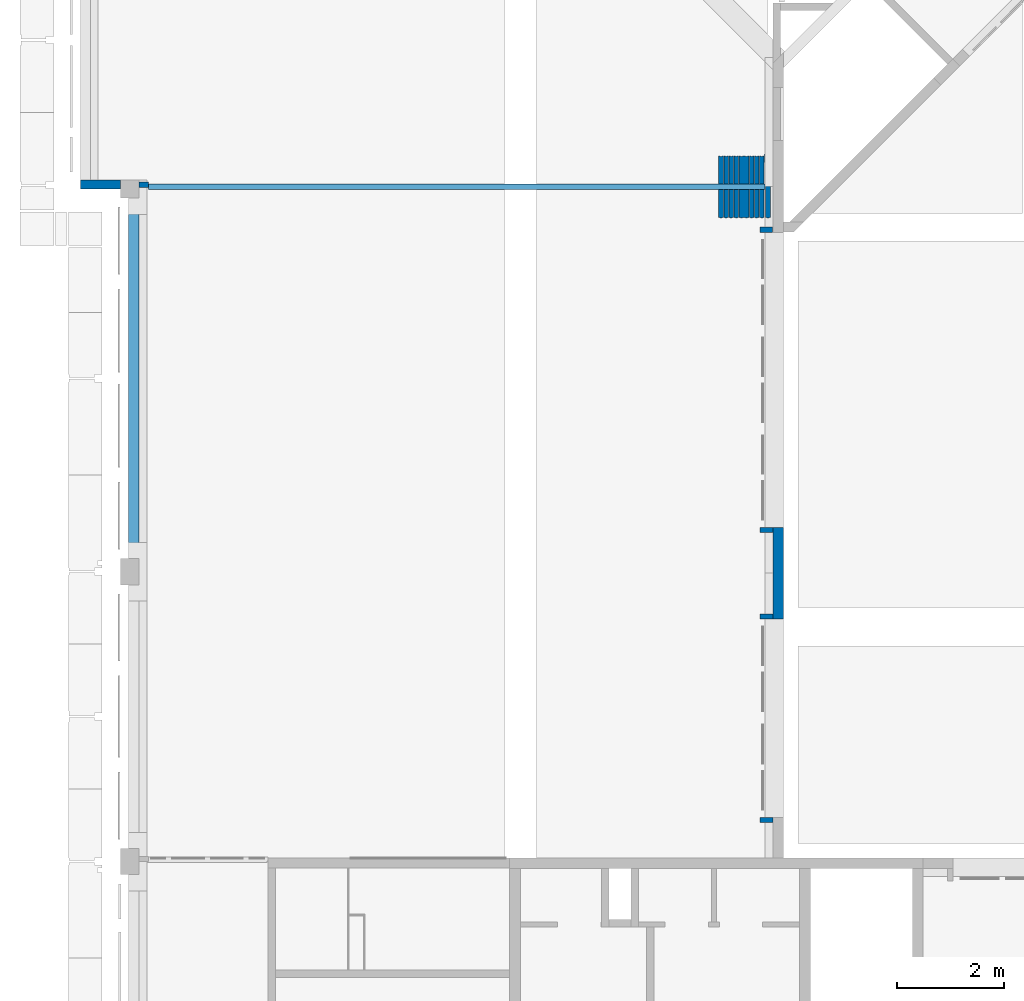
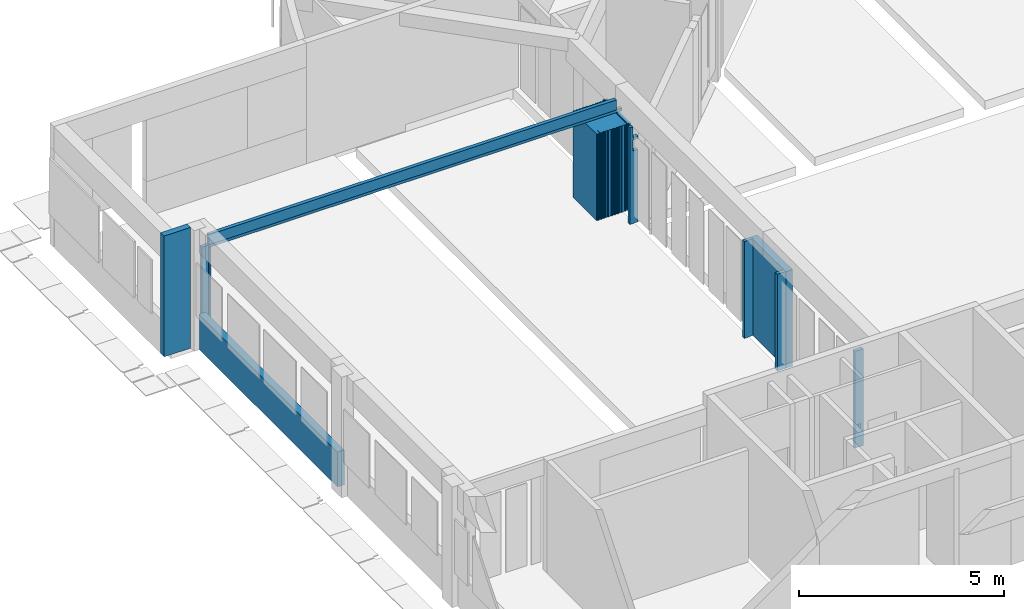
# One storey, part 15 of 30: 10 walls.
"""IFC4X3_ADD2 building model written with IfcOpenShell, lengths in millimetres."""

from ifc_helpers import new_model, si_unit, point, direction, frame, frame_2d, origin_with_axes, origin_2d_with_axis, place, context, subcontext, project, spatial, polyline, circle_curve, trimmed, segment, composite_curve, rectangle, outline, extrude, source, transform, mapped, material, type_object, type_shapes, element, save


model = new_model("IFC4X3_ADD2")

# Units and contexts
model_context = context("Model", 3, precision=1e-05, world=origin_with_axes(), true_north=direction((0.0, 1.0)))
body_context = subcontext(model_context, "Body", "Model", "MODEL_VIEW")
ifc_project = project(units=[si_unit("LENGTHUNIT", "METRE", prefix="MILLI"), si_unit("AREAUNIT", "SQUARE_METRE"), si_unit("VOLUMEUNIT", "CUBIC_METRE"), si_unit("PLANEANGLEUNIT", "RADIAN"), si_unit("TIMEUNIT", "SECOND"), si_unit("MASSUNIT", "GRAM")], contexts=[model_context])

# Site, building, storey
site_placement = place(None, origin_with_axes())
site = spatial("IfcSite", under=ifc_project, at=site_placement, Name="Site", CompositionType="ELEMENT")
building_placement = place(site_placement, origin_with_axes())
building = spatial("IfcBuilding", under=site, at=building_placement, Name="IFC Building Story")
storey_placement = place(building_placement, origin_with_axes())
storey = spatial("IfcBuildingStorey", under=building, at=storey_placement, Name="000", Elevation=0.0)

# Walls
ifc_material_1 = material(Name="BB_Beton_Bestaand")
wall_type_1 = type_object("IfcWallType", Name="BB_Beton_Bestaand 190", PredefinedType="NOTDEFINED", material=ifc_material_1)
wall_1_placement = place(storey_placement, origin_with_axes())
element("IfcWall", 1, at=wall_1_placement, inside=storey, type_object=wall_type_1, Name="Basic Wall:BB_XX_Wand uit beton, 190 mm", ObjectType="Basic Wall:BB_XX_Wand uit beton, 190 mm", PredefinedType="SOLIDWALL", context=body_context, shape_type="SweptSolid", body=[
    extrude(rectangle(XDim=6772.50000000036, YDim=189.9999999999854, at=frame_2d((0.0, 0.0), x_axis=(0.0, 1.0))), frame((-50700.0, 21631.25000000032, -200.0), z_axis=(0.0, 0.0, 1.0), x_axis=(1.0, 0.0, 0.0)), (0.0, 0.0, 1.0), 1040.0),
])
wall_2_placement = place(storey_placement, origin_with_axes())
element("IfcWall", 2, at=wall_2_placement, inside=storey, type_object=wall_type_1, Name="Basic Wall:BB_XX_Wand uit beton, 190 mm", ObjectType="Basic Wall:BB_XX_Wand uit beton, 190 mm", PredefinedType="SOLIDWALL", context=body_context, shape_type="SweptSolid", body=[
    extrude(rectangle(XDim=1710.0, YDim=190.0, at=frame_2d((0.0, 0.0), x_axis=(0.0, 1.0))), frame((-38700.0, 18000.0, -200.0), z_axis=(0.0, 0.0, 1.0), x_axis=(1.0, 0.0, 0.0)), (0.0, 0.0, 1.0), 2880.0),
])
wall_type_2 = type_object("IfcWallType", Name="BB_Beton_Bestaand 170", PredefinedType="NOTDEFINED", material=ifc_material_1)
wall_3_placement = place(storey_placement, origin_with_axes())
element("IfcWall", 3, at=wall_3_placement, inside=storey, type_object=wall_type_2, Name="Basic Wall:BB_XX_Wand uit beton, 170 mm", ObjectType="Basic Wall:BB_XX_Wand uit beton, 170 mm", PredefinedType="SOLIDWALL", context=body_context, shape_type="SweptSolid", body=[
    extrude(rectangle(XDim=750.0000000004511, YDim=169.9999999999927, at=origin_2d_with_axis()), frame((-51320.00000000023, 25240.0, -200.0), z_axis=(0.0, 0.0, 1.0), x_axis=(1.0, 0.0, 0.0)), (0.0, 0.0, 1.0), 3600.0),
])
wall_type_3 = type_object("IfcWallType", Name="Basic Wall_BB_10.01.41#03_Gipskartonwand_43dB_MS100 _ 25.50.25_ 100 mm", PredefinedType="NOTDEFINED")
shared_shape_1 = source(origin_with_axes(), body_context, "Body", "SweptSolid", [
    extrude(outline(polyline([(-102.0000000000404, -465.0000000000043), (38.00000000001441, -465.0000000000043), (38.00000000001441, -145.0000000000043), (-102.000000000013, -145.0000000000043), (-102.000000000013, 2019.999999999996), (127.999999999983, 2019.999999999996), (127.999999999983, -864.9999999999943), (38.00000000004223, -864.9999999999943), (38.00000000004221, -544.9999999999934), (-102.000000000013, -544.9999999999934), (-102.0000000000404, -465.0000000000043)])), frame((102.000000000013, 37.49999999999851, 2019.999999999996), z_axis=(0.0, 1.0, 0.0), x_axis=(1.0, 0.0, 0.0)), (0.0, 0.0, 1.0), 12.50000000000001),
    extrude(outline(polyline([(-102.0000000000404, -465.0000000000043), (38.00000000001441, -465.0000000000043), (38.00000000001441, -145.0000000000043), (-102.000000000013, -145.0000000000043), (-102.000000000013, 2019.999999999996), (127.999999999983, 2019.999999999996), (127.999999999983, -864.9999999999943), (38.00000000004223, -864.9999999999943), (38.00000000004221, -544.9999999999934), (-102.000000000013, -544.9999999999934), (-102.0000000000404, -465.0000000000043)])), frame((102.000000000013, 25.000000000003, 2019.999999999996), z_axis=(0.0, 1.0, 0.0), x_axis=(1.0, 0.0, 0.0)), (0.0, 0.0, 1.0), 12.5000000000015),
    extrude(outline(polyline([(-102.0000000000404, -465.0000000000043), (38.00000000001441, -465.0000000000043), (38.00000000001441, -145.0000000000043), (-102.000000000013, -145.0000000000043), (-102.000000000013, 2019.999999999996), (127.999999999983, 2019.999999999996), (127.999999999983, -864.9999999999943), (38.00000000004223, -864.9999999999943), (38.00000000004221, -544.9999999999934), (-102.000000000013, -544.9999999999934), (-102.0000000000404, -465.0000000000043)])), frame((102.0000000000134, -24.9999999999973, 2019.999999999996), z_axis=(0.0, 1.0, 0.0), x_axis=(1.0, 0.0, 0.0)), (0.0, 0.0, 1.0), 49.9999999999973),
    extrude(outline(polyline([(-102.0000000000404, -465.0000000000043), (38.00000000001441, -465.0000000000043), (38.00000000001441, -145.0000000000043), (-102.000000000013, -145.0000000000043), (-102.000000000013, 2019.999999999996), (127.999999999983, 2019.999999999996), (127.999999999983, -864.9999999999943), (38.00000000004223, -864.9999999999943), (38.00000000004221, -544.9999999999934), (-102.000000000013, -544.9999999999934), (-102.0000000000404, -465.0000000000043)])), frame((102.0000000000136, -37.50000000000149, 2019.999999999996), z_axis=(0.0, 1.0, 0.0), x_axis=(1.0, 0.0, 0.0)), (0.0, 0.0, 1.0), 12.50000000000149),
    extrude(outline(polyline([(-102.0000000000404, -465.0000000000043), (38.00000000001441, -465.0000000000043), (38.00000000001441, -145.0000000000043), (-102.000000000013, -145.0000000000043), (-102.000000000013, 2019.999999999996), (127.999999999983, 2019.999999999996), (127.999999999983, -864.9999999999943), (38.00000000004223, -864.9999999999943), (38.00000000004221, -544.9999999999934), (-102.000000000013, -544.9999999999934), (-102.0000000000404, -465.0000000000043)])), frame((102.0000000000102, -49.99999999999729, 2019.999999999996), z_axis=(0.0, 1.0, 0.0), x_axis=(1.0, 0.0, 0.0)), (0.0, 0.0, 1.0), 12.50000000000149),
])
type_shapes(wall_type_3, [shared_shape_1])
wall_4_placement = place(storey_placement, frame((-38805.0, 24395.0, -200.0), z_axis=(0.0, 0.0, 1.0), x_axis=(-1.0, 0.0, 0.0)))
element("IfcWall", 4, at=wall_4_placement, inside=storey, type_object=wall_type_3, Name="Basic Wall:BB_10.01.41#03_Gipskartonwand_43dB_MS100 / 25.50.25, 100 mm", ObjectType="Basic Wall:BB_10.01.41#03_Gipskartonwand_43dB_MS100 / 25.50.25, 100 mm", PredefinedType="PARTITIONING", context=body_context, shape_type="MappedRepresentation", body=[
    mapped(shared_shape_1, transform((0.0, 0.0, 0.0))),
])
wall_type_4 = type_object("IfcWallType", Name="Basic Wall_BB_10.01.41#03_Gipskartonwand_43dB_MS100 _ 25.50.25_ 100 mm31", PredefinedType="NOTDEFINED")
shared_shape_2 = source(origin_with_axes(), body_context, "Body", "SweptSolid", [
    extrude(rectangle(XDim=240.000000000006, YDim=12.49999999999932, at=origin_2d_with_axis()), frame((120.0, 43.75000000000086, 0.0), z_axis=(0.0, 0.0, 1.0), x_axis=(1.0, 0.0, 0.0)), (0.0, 0.0, 1.0), 2884.99999999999),
    extrude(rectangle(XDim=240.000000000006, YDim=12.49999999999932, at=origin_2d_with_axis()), frame((120.0, 31.24999999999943, 0.0), z_axis=(0.0, 0.0, 1.0), x_axis=(1.0, 0.0, 0.0)), (0.0, 0.0, 1.0), 2884.99999999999),
    extrude(rectangle(XDim=240.000000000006, YDim=50.00000000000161, at=origin_2d_with_axis()), frame((119.999999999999, 0.0, 0.0), z_axis=(0.0, 0.0, 1.0), x_axis=(1.0, 0.0, 0.0)), (0.0, 0.0, 1.0), 2884.99999999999),
    extrude(rectangle(XDim=240.000000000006, YDim=12.49999999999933, at=origin_2d_with_axis()), frame((120.0, -31.24999999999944, 0.0), z_axis=(0.0, 0.0, 1.0), x_axis=(1.0, 0.0, 0.0)), (0.0, 0.0, 1.0), 2884.99999999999),
    extrude(rectangle(XDim=240.000000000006, YDim=12.49999999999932, at=origin_2d_with_axis()), frame((119.999999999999, -43.7499999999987, 0.0), z_axis=(0.0, 0.0, 1.0), x_axis=(1.0, 0.0, 0.0)), (0.0, 0.0, 1.0), 2884.99999999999),
])
type_shapes(wall_type_4, [shared_shape_2])
wall_5_placement = place(storey_placement, frame((-39034.9959341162, 18805.0, -200.0), z_axis=(0.0, 0.0, 1.0), x_axis=(1.0, 0.0, 0.0)))
element("IfcWall", 5, at=wall_5_placement, inside=storey, type_object=wall_type_4, Name="Basic Wall:BB_10.01.41#03_Gipskartonwand_43dB_MS100 / 25.50.25, 100 mm", ObjectType="Basic Wall:BB_10.01.41#03_Gipskartonwand_43dB_MS100 / 25.50.25, 100 mm", PredefinedType="PARTITIONING", context=body_context, shape_type="MappedRepresentation", body=[
    mapped(shared_shape_2, transform((0.0, 0.0, 0.0))),
])
wall_type_5 = type_object("IfcWallType", Name="Basic Wall_BB_10.01.41#03_Gipskartonwand_43dB_MS100 _ 25.50.25_ 100 mm33", PredefinedType="NOTDEFINED")
shared_shape_3 = source(origin_with_axes(), body_context, "Body", "SweptSolid", [
    extrude(rectangle(XDim=240.000000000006, YDim=12.49999999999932, at=origin_2d_with_axis()), frame((120.0, 43.75000000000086, 0.0), z_axis=(0.0, 0.0, 1.0), x_axis=(1.0, 0.0, 0.0)), (0.0, 0.0, 1.0), 2884.99999999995),
    extrude(rectangle(XDim=240.000000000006, YDim=12.49999999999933, at=origin_2d_with_axis()), frame((120.0, 31.24999999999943, 0.0), z_axis=(0.0, 0.0, 1.0), x_axis=(1.0, 0.0, 0.0)), (0.0, 0.0, 1.0), 2884.99999999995),
    extrude(rectangle(XDim=240.000000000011, YDim=50.00000000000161, at=origin_2d_with_axis()), frame((119.999999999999, 0.0, 0.0), z_axis=(0.0, 0.0, 1.0), x_axis=(1.0, 0.0, 0.0)), (0.0, 0.0, 1.0), 2884.99999999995),
    extrude(rectangle(XDim=240.000000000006, YDim=12.49999999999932, at=origin_2d_with_axis()), frame((120.0, -31.24999999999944, 0.0), z_axis=(0.0, 0.0, 1.0), x_axis=(1.0, 0.0, 0.0)), (0.0, 0.0, 1.0), 2884.99999999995),
    extrude(rectangle(XDim=240.000000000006, YDim=12.49999999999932, at=origin_2d_with_axis()), frame((119.999999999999, -43.7499999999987, 0.0), z_axis=(0.0, 0.0, 1.0), x_axis=(1.0, 0.0, 0.0)), (0.0, 0.0, 1.0), 2884.99999999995),
])
type_shapes(wall_type_5, [shared_shape_3])
wall_6_placement = place(storey_placement, frame((-39034.9959341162, 13405.0, -200.0), z_axis=(0.0, 0.0, 1.0), x_axis=(1.0, 0.0, 0.0)))
element("IfcWall", 6, at=wall_6_placement, inside=storey, type_object=wall_type_5, Name="Basic Wall:BB_10.01.41#03_Gipskartonwand_43dB_MS100 / 25.50.25, 100 mm", ObjectType="Basic Wall:BB_10.01.41#03_Gipskartonwand_43dB_MS100 / 25.50.25, 100 mm", PredefinedType="PARTITIONING", context=body_context, shape_type="MappedRepresentation", body=[
    mapped(shared_shape_3, transform((0.0, 0.0, 0.0))),
])
wall_type_6 = type_object("IfcWallType", Name="Basic Wall_BB_10.01.41#03_Gipskartonwand_43dB_MS100 _ 25.50.25_ 100 mm35", PredefinedType="NOTDEFINED")
shared_shape_4 = source(origin_with_axes(), body_context, "Body", "SweptSolid", [
    extrude(rectangle(XDim=240.000000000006, YDim=12.49999999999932, at=origin_2d_with_axis()), frame((119.999999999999, -43.7499999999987, 0.0), z_axis=(0.0, 0.0, 1.0), x_axis=(1.0, 0.0, 0.0)), (0.0, 0.0, 1.0), 2884.99999999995),
    extrude(rectangle(XDim=240.000000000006, YDim=12.49999999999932, at=origin_2d_with_axis()), frame((120.0, -31.24999999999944, 0.0), z_axis=(0.0, 0.0, 1.0), x_axis=(1.0, 0.0, 0.0)), (0.0, 0.0, 1.0), 2884.99999999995),
    extrude(rectangle(XDim=240.000000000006, YDim=50.00000000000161, at=origin_2d_with_axis()), frame((119.999999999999, 0.0, 0.0), z_axis=(0.0, 0.0, 1.0), x_axis=(1.0, 0.0, 0.0)), (0.0, 0.0, 1.0), 2884.99999999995),
    extrude(rectangle(XDim=240.00000000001, YDim=12.49999999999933, at=origin_2d_with_axis()), frame((120.0, 31.24999999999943, 0.0), z_axis=(0.0, 0.0, 1.0), x_axis=(1.0, 0.0, 0.0)), (0.0, 0.0, 1.0), 2884.99999999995),
    extrude(rectangle(XDim=240.000000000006, YDim=12.49999999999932, at=origin_2d_with_axis()), frame((120.0, 43.75000000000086, 0.0), z_axis=(0.0, 0.0, 1.0), x_axis=(1.0, 0.0, 0.0)), (0.0, 0.0, 1.0), 2884.99999999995),
])
type_shapes(wall_type_6, [shared_shape_4])
wall_7_placement = place(storey_placement, frame((-39034.9959341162, 17195.0, -200.0), z_axis=(0.0, 0.0, 1.0), x_axis=(1.0, 0.0, 0.0)))
element("IfcWall", 7, at=wall_7_placement, inside=storey, type_object=wall_type_6, Name="Basic Wall:BB_10.01.41#03_Gipskartonwand_43dB_MS100 / 25.50.25, 100 mm", ObjectType="Basic Wall:BB_10.01.41#03_Gipskartonwand_43dB_MS100 / 25.50.25, 100 mm", PredefinedType="PARTITIONING", context=body_context, shape_type="MappedRepresentation", body=[
    mapped(shared_shape_4, transform((0.0, 0.0, 0.0))),
])
ifc_material_2 = material(Name="BB_MDF")
wall_type_7 = type_object("IfcWallType", Name="BB_10.02.31_Verrolbare binnenwand_ lokaal K.00.201_GMO_XX_Geen", PredefinedType="NOTDEFINED")
shared_shape_5 = source(origin_with_axes(), body_context, "Body", "SweptSolid", [
    extrude(outline(composite_curve([segment(polyline([(-24.00000000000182, -573.7499999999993), (-44.00000000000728, -573.7499999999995)]), True, "CONTINUOUS"), segment(polyline([(-44.00000000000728, -573.7499999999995), (-43.99999999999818, 573.7499999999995)]), True, "CONTINUOUS"), segment(polyline([(-43.99999999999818, 573.7499999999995), (-23.99999999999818, 573.7499999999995)]), True, "CONTINUOUS"), segment(trimmed(circle_curve(frame_2d((5.456968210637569e-12, 589.4038461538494), x_axis=(1.0, 0.0)), 28.65384615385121), [point((-23.99999999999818, 573.7499999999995))], [point((24.00000000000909, 573.7499999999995))], True, "CARTESIAN"), True, "CONTINUOUS"), segment(polyline([(24.00000000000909, 573.7499999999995), (44.00000000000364, 573.7499999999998)]), True, "CONTINUOUS"), segment(polyline([(44.00000000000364, 573.7499999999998), (43.99999999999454, -573.7499999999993)]), True, "CONTINUOUS"), segment(polyline([(43.99999999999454, -573.7499999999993), (23.99999999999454, -573.7499999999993)]), True, "CONTINUOUS"), segment(trimmed(circle_curve(frame_2d((-3.637978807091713e-12, -558.0961538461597), x_axis=(1.0, 0.0)), 28.65384615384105), [point((23.99999999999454, -573.7499999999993))], [point((-24.00000000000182, -573.7499999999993))], False, "CARTESIAN"), True, "CONTINUOUS")], self_intersect=False)), frame((11541.0, 586.7500000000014, 20.0), z_axis=(0.0, 0.0, 1.0), x_axis=(1.0, 0.0, 0.0)), (0.0, 0.0, 1.0), 2580.0),
    extrude(outline(composite_curve([segment(polyline([(-24.00000000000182, -573.7499999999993), (-44.00000000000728, -573.7499999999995)]), True, "CONTINUOUS"), segment(polyline([(-44.00000000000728, -573.7499999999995), (-43.99999999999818, 573.7499999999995)]), True, "CONTINUOUS"), segment(polyline([(-43.99999999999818, 573.7499999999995), (-23.99999999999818, 573.7499999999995)]), True, "CONTINUOUS"), segment(trimmed(circle_curve(frame_2d((5.456968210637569e-12, 589.4038461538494), x_axis=(1.0, 0.0)), 28.65384615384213), [point((-23.99999999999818, 573.7499999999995))], [point((24.00000000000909, 573.7499999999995))], True, "CARTESIAN"), True, "CONTINUOUS"), segment(polyline([(24.00000000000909, 573.7499999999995), (44.00000000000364, 573.7499999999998)]), True, "CONTINUOUS"), segment(polyline([(44.00000000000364, 573.7499999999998), (43.99999999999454, -573.7499999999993)]), True, "CONTINUOUS"), segment(polyline([(43.99999999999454, -573.7499999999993), (23.99999999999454, -573.7499999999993)]), True, "CONTINUOUS"), segment(trimmed(circle_curve(frame_2d((-3.637978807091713e-12, -558.0961538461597), x_axis=(1.0, 0.0)), 28.6538461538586), [point((23.99999999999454, -573.7499999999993))], [point((-24.00000000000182, -573.7499999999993))], False, "CARTESIAN"), True, "CONTINUOUS")], self_intersect=False)), frame((11426.0, 586.7500000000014, 20.0), z_axis=(0.0, 0.0, 1.0), x_axis=(1.0, 0.0, 0.0)), (0.0, 0.0, 1.0), 2580.0),
    extrude(outline(composite_curve([segment(polyline([(-24.00000000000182, -573.7499999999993), (-44.00000000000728, -573.7499999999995)]), True, "CONTINUOUS"), segment(polyline([(-44.00000000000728, -573.7499999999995), (-43.99999999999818, 573.7499999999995)]), True, "CONTINUOUS"), segment(polyline([(-43.99999999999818, 573.7499999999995), (-23.99999999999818, 573.7499999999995)]), True, "CONTINUOUS"), segment(trimmed(circle_curve(frame_2d((5.456968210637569e-12, 589.4038461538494), x_axis=(1.0, 0.0)), 28.65384615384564), [point((-23.99999999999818, 573.7499999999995))], [point((24.00000000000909, 573.7499999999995))], True, "CARTESIAN"), True, "CONTINUOUS"), segment(polyline([(24.00000000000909, 573.7499999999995), (44.00000000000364, 573.7499999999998)]), True, "CONTINUOUS"), segment(polyline([(44.00000000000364, 573.7499999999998), (43.99999999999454, -573.7499999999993)]), True, "CONTINUOUS"), segment(polyline([(43.99999999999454, -573.7499999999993), (23.99999999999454, -573.7499999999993)]), True, "CONTINUOUS"), segment(trimmed(circle_curve(frame_2d((-3.637978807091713e-12, -558.0961538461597), x_axis=(1.0, 0.0)), 28.65384615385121), [point((23.99999999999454, -573.7499999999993))], [point((-24.00000000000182, -573.7499999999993))], False, "CARTESIAN"), True, "CONTINUOUS")], self_intersect=False)), frame((11331.0, 586.7500000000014, 20.0), z_axis=(0.0, 0.0, 1.0), x_axis=(1.0, 0.0, 0.0)), (0.0, 0.0, 1.0), 2580.0),
    extrude(outline(composite_curve([segment(polyline([(-24.00000000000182, -573.7499999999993), (-44.00000000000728, -573.7499999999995)]), True, "CONTINUOUS"), segment(polyline([(-44.00000000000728, -573.7499999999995), (-43.99999999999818, 573.7499999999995)]), True, "CONTINUOUS"), segment(polyline([(-43.99999999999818, 573.7499999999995), (-23.99999999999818, 573.7499999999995)]), True, "CONTINUOUS"), segment(trimmed(circle_curve(frame_2d((5.456968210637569e-12, 589.4038461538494), x_axis=(1.0, 0.0)), 28.65384615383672), [point((-23.99999999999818, 573.7499999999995))], [point((24.00000000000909, 573.7499999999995))], True, "CARTESIAN"), True, "CONTINUOUS"), segment(polyline([(24.00000000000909, 573.7499999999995), (44.00000000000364, 573.7499999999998)]), True, "CONTINUOUS"), segment(polyline([(44.00000000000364, 573.7499999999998), (43.99999999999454, -573.7499999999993)]), True, "CONTINUOUS"), segment(polyline([(43.99999999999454, -573.7499999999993), (23.99999999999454, -573.7499999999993)]), True, "CONTINUOUS"), segment(trimmed(circle_curve(frame_2d((-3.637978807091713e-12, -558.0961538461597), x_axis=(1.0, 0.0)), 28.65384615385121), [point((23.99999999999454, -573.7499999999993))], [point((-24.00000000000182, -573.7499999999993))], False, "CARTESIAN"), True, "CONTINUOUS")], self_intersect=False)), frame((11236.0, 586.7500000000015, 20.0), z_axis=(0.0, 0.0, 1.0), x_axis=(1.0, 0.0, 0.0)), (0.0, 0.0, 1.0), 2580.0),
    extrude(outline(composite_curve([segment(polyline([(-24.00000000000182, -573.7499999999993), (-44.00000000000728, -573.7499999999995)]), True, "CONTINUOUS"), segment(polyline([(-44.00000000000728, -573.7499999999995), (-43.99999999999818, 573.7499999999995)]), True, "CONTINUOUS"), segment(polyline([(-43.99999999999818, 573.7499999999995), (-23.99999999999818, 573.7499999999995)]), True, "CONTINUOUS"), segment(trimmed(circle_curve(frame_2d((5.456968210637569e-12, 589.4038461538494), x_axis=(1.0, 0.0)), 28.65384615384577), [point((-23.99999999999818, 573.7499999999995))], [point((24.00000000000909, 573.7499999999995))], True, "CARTESIAN"), True, "CONTINUOUS"), segment(polyline([(24.00000000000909, 573.7499999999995), (44.00000000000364, 573.7499999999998)]), True, "CONTINUOUS"), segment(polyline([(44.00000000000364, 573.7499999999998), (43.99999999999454, -573.7499999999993)]), True, "CONTINUOUS"), segment(polyline([(43.99999999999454, -573.7499999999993), (23.99999999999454, -573.7499999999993)]), True, "CONTINUOUS"), segment(trimmed(circle_curve(frame_2d((-3.637978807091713e-12, -558.0961538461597), x_axis=(1.0, 0.0)), 28.65384615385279), [point((23.99999999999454, -573.7499999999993))], [point((-24.00000000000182, -573.7499999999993))], False, "CARTESIAN"), True, "CONTINUOUS")], self_intersect=False)), frame((11141.0, 586.750000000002, 20.0), z_axis=(0.0, 0.0, 1.0), x_axis=(1.0, 0.0, 0.0)), (0.0, 0.0, 1.0), 2580.0),
    extrude(outline(composite_curve([segment(polyline([(-24.00000000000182, -573.7499999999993), (-44.00000000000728, -573.7499999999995)]), True, "CONTINUOUS"), segment(polyline([(-44.00000000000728, -573.7499999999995), (-43.99999999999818, 573.7499999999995)]), True, "CONTINUOUS"), segment(polyline([(-43.99999999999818, 573.7499999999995), (-23.99999999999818, 573.7499999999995)]), True, "CONTINUOUS"), segment(trimmed(circle_curve(frame_2d((5.456968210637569e-12, 589.4038461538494), x_axis=(1.0, 0.0)), 28.65384615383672), [point((-23.99999999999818, 573.7499999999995))], [point((24.00000000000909, 573.7499999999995))], True, "CARTESIAN"), True, "CONTINUOUS"), segment(polyline([(24.00000000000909, 573.7499999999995), (44.00000000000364, 573.7499999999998)]), True, "CONTINUOUS"), segment(polyline([(44.00000000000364, 573.7499999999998), (43.99999999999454, -573.7499999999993)]), True, "CONTINUOUS"), segment(polyline([(43.99999999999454, -573.7499999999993), (23.99999999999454, -573.7499999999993)]), True, "CONTINUOUS"), segment(trimmed(circle_curve(frame_2d((-3.637978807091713e-12, -558.0961538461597), x_axis=(1.0, 0.0)), 28.65384615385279), [point((23.99999999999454, -573.7499999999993))], [point((-24.00000000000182, -573.7499999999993))], False, "CARTESIAN"), True, "CONTINUOUS")], self_intersect=False)), frame((11046.00000000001, 586.7500000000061, 20.0), z_axis=(0.0, 0.0, 1.0), x_axis=(1.0, 0.0, 0.0)), (0.0, 0.0, 1.0), 2580.0),
    extrude(outline(composite_curve([segment(polyline([(-24.00000000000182, -573.7499999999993), (-44.00000000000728, -573.7499999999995)]), True, "CONTINUOUS"), segment(polyline([(-44.00000000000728, -573.7499999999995), (-43.99999999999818, 573.7499999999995)]), True, "CONTINUOUS"), segment(polyline([(-43.99999999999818, 573.7499999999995), (-23.99999999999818, 573.7499999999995)]), True, "CONTINUOUS"), segment(trimmed(circle_curve(frame_2d((5.456968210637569e-12, 589.4038461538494), x_axis=(1.0, 0.0)), 28.65384615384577), [point((-23.99999999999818, 573.7499999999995))], [point((24.00000000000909, 573.7499999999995))], True, "CARTESIAN"), True, "CONTINUOUS"), segment(polyline([(24.00000000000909, 573.7499999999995), (44.00000000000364, 573.7499999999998)]), True, "CONTINUOUS"), segment(polyline([(44.00000000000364, 573.7499999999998), (43.99999999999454, -573.7499999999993)]), True, "CONTINUOUS"), segment(polyline([(43.99999999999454, -573.7499999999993), (23.99999999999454, -573.7499999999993)]), True, "CONTINUOUS"), segment(trimmed(circle_curve(frame_2d((-3.637978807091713e-12, -558.0961538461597), x_axis=(1.0, 0.0)), 28.65384615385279), [point((23.99999999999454, -573.7499999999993))], [point((-24.00000000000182, -573.7499999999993))], False, "CARTESIAN"), True, "CONTINUOUS")], self_intersect=False)), frame((10951.0, 586.7500000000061, 20.0), z_axis=(0.0, 0.0, 1.0), x_axis=(1.0, 0.0, 0.0)), (0.0, 0.0, 1.0), 2580.0),
    extrude(outline(composite_curve([segment(polyline([(-24.00000000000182, -573.7499999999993), (-44.00000000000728, -573.7499999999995)]), True, "CONTINUOUS"), segment(polyline([(-44.00000000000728, -573.7499999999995), (-43.99999999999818, 573.7499999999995)]), True, "CONTINUOUS"), segment(polyline([(-43.99999999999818, 573.7499999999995), (-23.99999999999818, 573.7499999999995)]), True, "CONTINUOUS"), segment(trimmed(circle_curve(frame_2d((5.456968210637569e-12, 589.4038461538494), x_axis=(1.0, 0.0)), 28.65384615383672), [point((-23.99999999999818, 573.7499999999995))], [point((24.00000000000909, 573.7499999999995))], True, "CARTESIAN"), True, "CONTINUOUS"), segment(polyline([(24.00000000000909, 573.7499999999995), (44.00000000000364, 573.7499999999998)]), True, "CONTINUOUS"), segment(polyline([(44.00000000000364, 573.7499999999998), (43.99999999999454, -573.7499999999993)]), True, "CONTINUOUS"), segment(polyline([(43.99999999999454, -573.7499999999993), (23.99999999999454, -573.7499999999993)]), True, "CONTINUOUS"), segment(trimmed(circle_curve(frame_2d((-3.637978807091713e-12, -558.0961538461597), x_axis=(1.0, 0.0)), 28.65384615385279), [point((23.99999999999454, -573.7499999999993))], [point((-24.00000000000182, -573.7499999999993))], False, "CARTESIAN"), True, "CONTINUOUS")], self_intersect=False)), frame((10856.00000000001, 586.7500000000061, 20.0), z_axis=(0.0, 0.0, 1.0), x_axis=(1.0, 0.0, 0.0)), (0.0, 0.0, 1.0), 2580.0),
    extrude(outline(polyline([(-64.00000000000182, 84.0), (64.0, 84.0), (64.0, -76.0000000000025), (48.0, -75.99999999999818), (48.0, 67.99999999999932), (-48.0, 67.99999999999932), (-48.0, -75.99999999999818), (-64.00000000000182, -75.99999999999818), (-64.00000000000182, 84.0)])), frame((11541.0, 1114.499999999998, 20.0), z_axis=(0.0, 0.0, 1.0), x_axis=(1.0, 0.0, 0.0)), (0.0, 0.0, 1.0), 2580.0),
    extrude(outline(polyline([(-33.99999999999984, -44.0), (-33.99999999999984, 44.0), (26.00000000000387, 44.0), (26.00000000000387, 28.0), (-18.00000000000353, 28.0), (-18.00000000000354, -28.0), (26.00000000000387, -28.0), (25.99999999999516, -44.0), (-33.99999999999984, -44.0)])), frame((33.99999999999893, 586.750000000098, 20.0), z_axis=(0.0, 0.0, 1.0), x_axis=(1.0, 0.0, 0.0)), (0.0, 0.0, 1.0), 2580.0),
    extrude(rectangle(XDim=11644.99999999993, YDim=99.99999999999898, at=origin_2d_with_axis()), frame((5822.500000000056, 586.7500000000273, 2620.0), z_axis=(0.0, 0.0, 1.0), x_axis=(1.0, 0.0, 0.0)), (0.0, 0.0, 1.0), 80.0),
    extrude(outline(composite_curve([segment(polyline([(-24.00000000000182, -573.7499999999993), (-44.00000000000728, -573.7499999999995)]), True, "CONTINUOUS"), segment(polyline([(-44.00000000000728, -573.7499999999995), (-43.99999999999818, 573.7499999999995)]), True, "CONTINUOUS"), segment(polyline([(-43.99999999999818, 573.7499999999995), (-23.99999999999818, 573.7499999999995)]), True, "CONTINUOUS"), segment(trimmed(circle_curve(frame_2d((5.456968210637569e-12, 589.4038461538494), x_axis=(1.0, 0.0)), 28.65384615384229), [point((-23.99999999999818, 573.7499999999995))], [point((24.00000000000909, 573.7499999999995))], True, "CARTESIAN"), True, "CONTINUOUS"), segment(polyline([(24.00000000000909, 573.7499999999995), (44.00000000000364, 573.7499999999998)]), True, "CONTINUOUS"), segment(polyline([(44.00000000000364, 573.7499999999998), (43.99999999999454, -573.7499999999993)]), True, "CONTINUOUS"), segment(polyline([(43.99999999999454, -573.7499999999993), (23.99999999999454, -573.7499999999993)]), True, "CONTINUOUS"), segment(trimmed(circle_curve(frame_2d((-3.637978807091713e-12, -558.0961538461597), x_axis=(1.0, 0.0)), 28.65384615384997), [point((23.99999999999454, -573.7499999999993))], [point((-24.00000000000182, -573.7499999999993))], False, "CARTESIAN"), True, "CONTINUOUS")], self_intersect=False)), frame((10761.00000000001, 586.7500000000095, 20.0), z_axis=(0.0, 0.0, 1.0), x_axis=(1.0, 0.0, 0.0)), (0.0, 0.0, 1.0), 2580.0),
    extrude(outline(composite_curve([segment(polyline([(-24.00000000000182, -573.7499999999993), (-44.00000000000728, -573.7499999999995)]), True, "CONTINUOUS"), segment(polyline([(-44.00000000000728, -573.7499999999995), (-43.99999999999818, 573.7499999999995)]), True, "CONTINUOUS"), segment(polyline([(-43.99999999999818, 573.7499999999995), (-23.99999999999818, 573.7499999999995)]), True, "CONTINUOUS"), segment(trimmed(circle_curve(frame_2d((5.456968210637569e-12, 589.4038461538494), x_axis=(1.0, 0.0)), 28.65384615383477), [point((-23.99999999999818, 573.7499999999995))], [point((24.00000000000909, 573.7499999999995))], True, "CARTESIAN"), True, "CONTINUOUS"), segment(polyline([(24.00000000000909, 573.7499999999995), (44.00000000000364, 573.7499999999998)]), True, "CONTINUOUS"), segment(polyline([(44.00000000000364, 573.7499999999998), (43.99999999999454, -573.7499999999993)]), True, "CONTINUOUS"), segment(polyline([(43.99999999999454, -573.7499999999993), (23.99999999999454, -573.7499999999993)]), True, "CONTINUOUS"), segment(trimmed(circle_curve(frame_2d((-3.637978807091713e-12, -558.0961538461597), x_axis=(1.0, 0.0)), 28.65384615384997), [point((23.99999999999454, -573.7499999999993))], [point((-24.00000000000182, -573.7499999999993))], False, "CARTESIAN"), True, "CONTINUOUS")], self_intersect=False)), frame((10666.00000000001, 586.7500000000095, 20.0), z_axis=(0.0, 0.0, 1.0), x_axis=(1.0, 0.0, 0.0)), (0.0, 0.0, 1.0), 2580.0),
])
type_shapes(wall_type_7, [shared_shape_5])
wall_8_placement = place(storey_placement, frame((-50430.0, 24613.2499999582, 0.0), z_axis=(0.0, 0.0, 1.0), x_axis=(1.0, 0.0, 0.0)))
element("IfcWall", 8, at=wall_8_placement, inside=storey, type_object=wall_type_7, material=ifc_material_2, Name="BB_10.02.31_Verrolbare binnenwand, lokaal K.00.201_GMO:XX_Geen", ObjectType="BB_10.02.31_Verrolbare binnenwand, lokaal K.00.201_GMO:XX_Geen", PredefinedType="MOVABLE", context=body_context, shape_type="MappedRepresentation", body=[
    mapped(shared_shape_5, transform((0.0, 0.0, 0.0))),
])
wall_type_8 = type_object("IfcWallType", Name="Basic Wall_BB_10.01.41#01_Gipskartonwand_MS100 _ 25.50.25_ 100 mm15", PredefinedType="NOTDEFINED")
shared_shape_6 = source(origin_with_axes(), body_context, "Body", "SweptSolid", [
    extrude(rectangle(XDim=11484.99999999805, YDim=12.50000000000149, at=origin_2d_with_axis()), frame((5742.499999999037, 43.750000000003, 0.0), z_axis=(0.0, 0.0, 1.0), x_axis=(1.0, 0.0, 0.0)), (0.0, 0.0, 1.0), 299.999999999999),
    extrude(rectangle(XDim=11484.99999999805, YDim=12.5000000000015, at=origin_2d_with_axis()), frame((5742.499999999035, 31.2500000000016, 0.0), z_axis=(0.0, 0.0, 1.0), x_axis=(1.0, 0.0, 0.0)), (0.0, 0.0, 1.0), 299.999999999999),
    extrude(rectangle(XDim=11484.99999999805, YDim=49.9999999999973, at=origin_2d_with_axis()), frame((5742.499999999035, -2.149391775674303e-12, 0.0), z_axis=(0.0, 0.0, 1.0), x_axis=(1.0, 0.0, 0.0)), (0.0, 0.0, 1.0), 299.999999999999),
    extrude(rectangle(XDim=11484.99999999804, YDim=12.5000000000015, at=origin_2d_with_axis()), frame((5742.499999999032, -31.2499999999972, 0.0), z_axis=(0.0, 0.0, 1.0), x_axis=(1.0, 0.0, 0.0)), (0.0, 0.0, 1.0), 299.999999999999),
    extrude(rectangle(XDim=11484.99999999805, YDim=12.49999999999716, at=origin_2d_with_axis()), frame((5742.499999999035, -43.74999999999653, 0.0), z_axis=(0.0, 0.0, 1.0), x_axis=(1.0, 0.0, 0.0)), (0.0, 0.0, 1.0), 299.999999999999),
])
type_shapes(wall_type_8, [shared_shape_6])
wall_9_placement = place(storey_placement, frame((-50430.0, 25200.0, 2700.0), z_axis=(0.0, 0.0, 1.0), x_axis=(1.0, 0.0, 0.0)))
element("IfcWall", 9, at=wall_9_placement, inside=storey, type_object=wall_type_8, Name="Basic Wall:BB_10.01.41#01_Gipskartonwand_MS100 / 25.50.25, 100 mm", ObjectType="Basic Wall:BB_10.01.41#01_Gipskartonwand_MS100 / 25.50.25, 100 mm", PredefinedType="PARTITIONING", context=body_context, shape_type="MappedRepresentation", body=[
    mapped(shared_shape_6, transform((0.0, 0.0, 0.0))),
])
wall_type_9 = type_object("IfcWallType", Name="Basic Wall_BB_10.01.41#03_Gipskartonwand_43dB_MS100 _ 25.50.25_ 100 mm51", PredefinedType="NOTDEFINED")
shared_shape_7 = source(origin_with_axes(), body_context, "Body", "SweptSolid", [
    extrude(rectangle(XDim=175.0000000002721, YDim=12.50000000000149, at=origin_2d_with_axis()), frame((87.500000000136, 43.74999999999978, 0.0), z_axis=(0.0, 0.0, 1.0), x_axis=(1.0, 0.0, 0.0)), (0.0, 0.0, 1.0), 2670.0),
    extrude(rectangle(XDim=175.0000000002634, YDim=12.50000000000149, at=origin_2d_with_axis()), frame((87.500000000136, 31.25000000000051, 0.0), z_axis=(0.0, 0.0, 1.0), x_axis=(1.0, 0.0, 0.0)), (0.0, 0.0, 1.0), 2670.0),
    extrude(rectangle(XDim=175.000000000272, YDim=49.9999999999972, at=origin_2d_with_axis()), frame((87.500000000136, 0.0, 0.0), z_axis=(0.0, 0.0, 1.0), x_axis=(1.0, 0.0, 0.0)), (0.0, 0.0, 1.0), 2670.0),
    extrude(rectangle(XDim=175.000000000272, YDim=12.50000000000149, at=origin_2d_with_axis()), frame((87.500000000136, -31.25000000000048, 0.0), z_axis=(0.0, 0.0, 1.0), x_axis=(1.0, 0.0, 0.0)), (0.0, 0.0, 1.0), 2670.0),
    extrude(rectangle(XDim=175.000000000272, YDim=12.49999999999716, at=origin_2d_with_axis()), frame((87.500000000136, -43.74999999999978, 0.0), z_axis=(0.0, 0.0, 1.0), x_axis=(1.0, 0.0, 0.0)), (0.0, 0.0, 1.0), 2670.0),
])
type_shapes(wall_type_9, [shared_shape_7])
wall_10_placement = place(storey_placement, frame((-50605.0, 25235.0, 0.0), z_axis=(0.0, 0.0, 1.0), x_axis=(1.0, 0.0, 0.0)))
element("IfcWall", 10, at=wall_10_placement, inside=storey, type_object=wall_type_9, Name="Basic Wall:BB_10.01.41#03_Gipskartonwand_43dB_MS100 / 25.50.25, 100 mm", ObjectType="Basic Wall:BB_10.01.41#03_Gipskartonwand_43dB_MS100 / 25.50.25, 100 mm", PredefinedType="PARTITIONING", context=body_context, shape_type="MappedRepresentation", body=[
    mapped(shared_shape_7, transform((0.0, 0.0, 0.0))),
])

save(model, "model.ifc")
